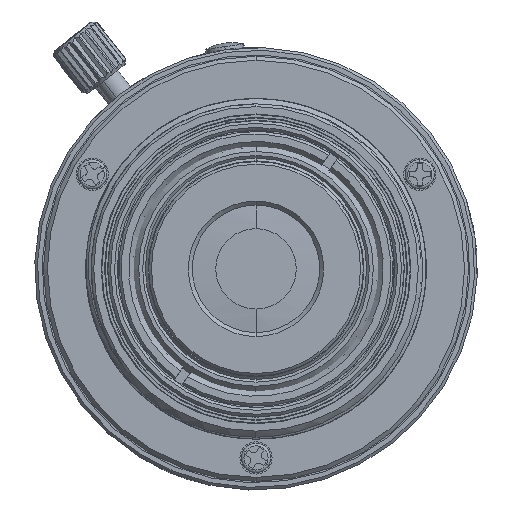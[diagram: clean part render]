
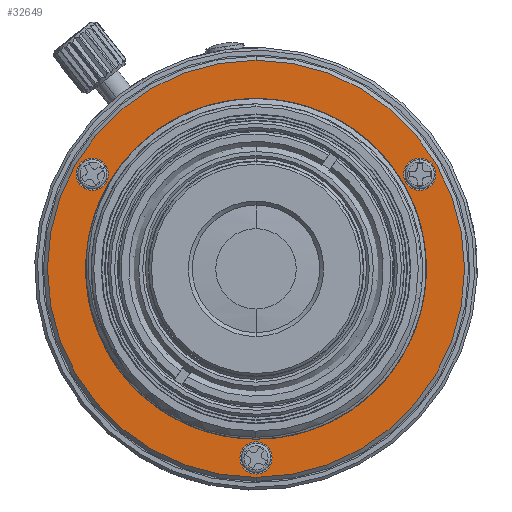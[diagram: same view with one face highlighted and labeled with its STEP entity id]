
A CAD part, front view. The second image highlights one B-rep face of the part: STEP entity #32649.
In plain terms, the highlighted planar face has unit normal (0, -1, 0).
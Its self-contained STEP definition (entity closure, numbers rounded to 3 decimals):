
#31346=CARTESIAN_POINT('',(0.,-2.674,0.));
#31347=DIRECTION('',(0.,1.,0.));
#31348=DIRECTION('',(0.,0.,-1.));
#31349=AXIS2_PLACEMENT_3D('',#31346,#31347,#31348);
#31351=CARTESIAN_POINT('',(0.,-2.674,0.));
#31352=DIRECTION('',(0.,1.,0.));
#31353=DIRECTION('',(0.,0.,1.));
#31354=AXIS2_PLACEMENT_3D('',#31351,#31352,#31353);
#31356=CARTESIAN_POINT('',(0.,-2.674,0.));
#31357=DIRECTION('',(0.,-1.,0.));
#31358=DIRECTION('',(0.,0.,1.));
#31359=AXIS2_PLACEMENT_3D('',#31356,#31357,#31358);
#31361=CARTESIAN_POINT('',(0.,-2.674,0.));
#31362=DIRECTION('',(0.,-1.,0.));
#31363=DIRECTION('',(0.,0.,-1.));
#31364=AXIS2_PLACEMENT_3D('',#31361,#31362,#31363);
#31366=CARTESIAN_POINT('',(0.,-2.674,-14.1));
#31367=DIRECTION('',(0.,-1.,0.));
#31368=DIRECTION('',(0.,0.,-1.));
#31369=AXIS2_PLACEMENT_3D('',#31366,#31367,#31368);
#31371=CARTESIAN_POINT('',(0.,-2.674,-14.1));
#31372=DIRECTION('',(0.,-1.,0.));
#31373=DIRECTION('',(0.,0.,1.));
#31374=AXIS2_PLACEMENT_3D('',#31371,#31372,#31373);
#31376=CARTESIAN_POINT('',(12.211,-2.674,7.05));
#31377=DIRECTION('',(0.,-1.,0.));
#31378=DIRECTION('',(0.866,0.,0.5));
#31379=AXIS2_PLACEMENT_3D('',#31376,#31377,#31378);
#31381=CARTESIAN_POINT('',(12.211,-2.674,7.05));
#31382=DIRECTION('',(0.,-1.,0.));
#31383=DIRECTION('',(-0.866,0.,-0.5));
#31384=AXIS2_PLACEMENT_3D('',#31381,#31382,#31383);
#31386=CARTESIAN_POINT('',(-12.211,-2.674,7.05));
#31387=DIRECTION('',(0.,-1.,0.));
#31388=DIRECTION('',(-0.866,0.,0.5));
#31389=AXIS2_PLACEMENT_3D('',#31386,#31387,#31388);
#31391=CARTESIAN_POINT('',(-12.211,-2.674,7.05));
#31392=DIRECTION('',(0.,-1.,0.));
#31393=DIRECTION('',(0.866,0.,-0.5));
#31394=AXIS2_PLACEMENT_3D('',#31391,#31392,#31393);
#32384=CARTESIAN_POINT('',(0.,-2.674,15.55));
#32385=VERTEX_POINT('',#32384);
#32386=CARTESIAN_POINT('',(0.,-2.674,-15.55));
#32387=VERTEX_POINT('',#32386);
#32388=CARTESIAN_POINT('',(0.,-2.674,12.1));
#32389=CARTESIAN_POINT('',(0.,-2.674,-12.1));
#32390=VERTEX_POINT('',#32388);
#32391=VERTEX_POINT('',#32389);
#32392=CARTESIAN_POINT('',(0.,-2.674,-15.3));
#32393=CARTESIAN_POINT('',(0.,-2.674,-12.9));
#32394=VERTEX_POINT('',#32392);
#32395=VERTEX_POINT('',#32393);
#32396=CARTESIAN_POINT('',(13.25,-2.674,7.65));
#32397=CARTESIAN_POINT('',(11.172,-2.674,6.45));
#32398=VERTEX_POINT('',#32396);
#32399=VERTEX_POINT('',#32397);
#32400=CARTESIAN_POINT('',(-13.25,-2.674,7.65));
#32401=CARTESIAN_POINT('',(-11.172,-2.674,6.45));
#32402=VERTEX_POINT('',#32400);
#32403=VERTEX_POINT('',#32401);
#32616=CARTESIAN_POINT('',(0.,-2.674,0.));
#32617=DIRECTION('',(0.,-1.,0.));
#32618=DIRECTION('',(0.,0.,1.));
#32619=AXIS2_PLACEMENT_3D('',#32616,#32617,#32618);
#32620=PLANE('',#32619);
#32621=ORIENTED_EDGE('',*,*,#32596,.T.);
#32622=ORIENTED_EDGE('',*,*,#32610,.T.);
#32623=EDGE_LOOP('',(#32621,#32622));
#32624=FACE_OUTER_BOUND('',#32623,.F.);
#32626=ORIENTED_EDGE('',*,*,#32625,.T.);
#32628=ORIENTED_EDGE('',*,*,#32627,.T.);
#32629=EDGE_LOOP('',(#32626,#32628));
#32630=FACE_BOUND('',#32629,.F.);
#32632=ORIENTED_EDGE('',*,*,#32631,.T.);
#32634=ORIENTED_EDGE('',*,*,#32633,.T.);
#32635=EDGE_LOOP('',(#32632,#32634));
#32636=FACE_BOUND('',#32635,.F.);
#32638=ORIENTED_EDGE('',*,*,#32637,.T.);
#32640=ORIENTED_EDGE('',*,*,#32639,.T.);
#32641=EDGE_LOOP('',(#32638,#32640));
#32642=FACE_BOUND('',#32641,.F.);
#32644=ORIENTED_EDGE('',*,*,#32643,.T.);
#32646=ORIENTED_EDGE('',*,*,#32645,.T.);
#32647=EDGE_LOOP('',(#32644,#32646));
#32648=FACE_BOUND('',#32647,.F.);
#32649=ADVANCED_FACE('',(#32624,#32630,#32636,#32642,#32648),#32620,.T.);
#31350=CIRCLE('',#31349,15.55);
#31355=CIRCLE('',#31354,15.55);
#31360=CIRCLE('',#31359,12.1);
#31365=CIRCLE('',#31364,12.1);
#31370=CIRCLE('',#31369,1.2);
#31375=CIRCLE('',#31374,1.2);
#31380=CIRCLE('',#31379,1.2);
#31385=CIRCLE('',#31384,1.2);
#31390=CIRCLE('',#31389,1.2);
#31395=CIRCLE('',#31394,1.2);
#32596=EDGE_CURVE('',#32387,#32385,#31350,.T.);
#32610=EDGE_CURVE('',#32385,#32387,#31355,.T.);
#32625=EDGE_CURVE('',#32390,#32391,#31360,.T.);
#32627=EDGE_CURVE('',#32391,#32390,#31365,.T.);
#32631=EDGE_CURVE('',#32394,#32395,#31370,.T.);
#32633=EDGE_CURVE('',#32395,#32394,#31375,.T.);
#32637=EDGE_CURVE('',#32398,#32399,#31380,.T.);
#32639=EDGE_CURVE('',#32399,#32398,#31385,.T.);
#32643=EDGE_CURVE('',#32402,#32403,#31390,.T.);
#32645=EDGE_CURVE('',#32403,#32402,#31395,.T.);
